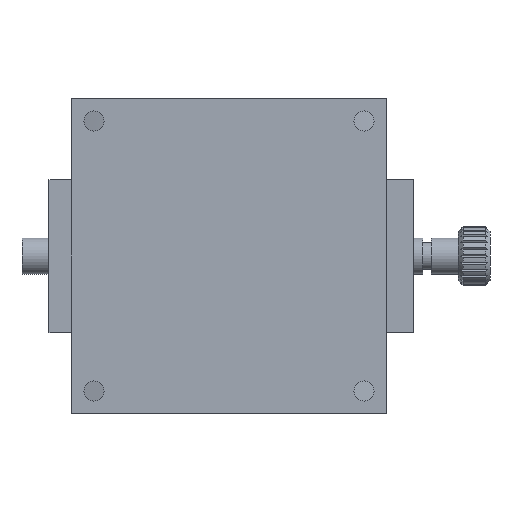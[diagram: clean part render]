
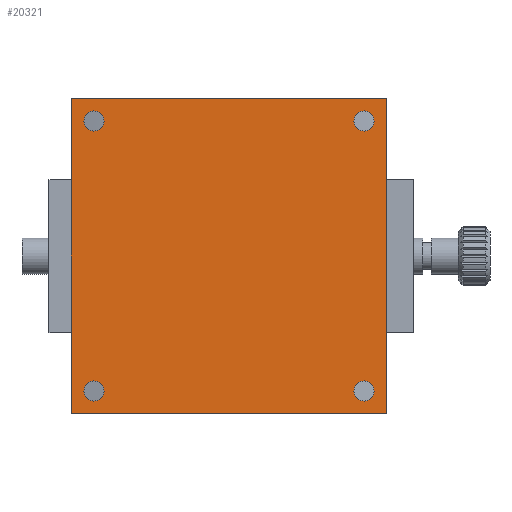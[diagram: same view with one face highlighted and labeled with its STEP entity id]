
A CAD part, front view. The second image highlights one B-rep face of the part: STEP entity #20321.
In plain terms, the highlighted planar face has unit normal (0, -1, 0).
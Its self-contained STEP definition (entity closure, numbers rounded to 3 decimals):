
#957 = AXIS2_PLACEMENT_3D ( 'NONE', #22157, #11945, #13937 ) ;
#1054 = CARTESIAN_POINT ( 'NONE',  ( -35., 0., -35. ) ) ;
#1596 = CARTESIAN_POINT ( 'NONE',  ( 0., 0., 0. ) ) ;
#1687 = DIRECTION ( 'NONE',  ( 0., -1., 0. ) ) ;
#2379 = VERTEX_POINT ( 'NONE', #13180 ) ;
#2416 = CIRCLE ( 'NONE', #24194, 2.25 ) ;
#2545 = ORIENTED_EDGE ( 'NONE', *, *, #26191, .T. ) ;
#2714 = CARTESIAN_POINT ( 'NONE',  ( -35., 0., -35. ) ) ;
#2933 = FACE_BOUND ( 'NONE', #18120, .T. ) ;
#2976 = DIRECTION ( 'NONE',  ( 0., 0., -1. ) ) ;
#3009 = CARTESIAN_POINT ( 'NONE',  ( 30., 0., -30. ) ) ;
#3353 = ORIENTED_EDGE ( 'NONE', *, *, #11181, .F. ) ;
#3579 = CIRCLE ( 'NONE', #13465, 2.25 ) ;
#3696 = DIRECTION ( 'NONE',  ( 0., 0., 1. ) ) ;
#4231 = LINE ( 'NONE', #5696, #11622 ) ;
#4614 = EDGE_LOOP ( 'NONE', ( #18797, #17537 ) ) ;
#5057 = EDGE_CURVE ( 'NONE', #19067, #16190, #21236, .T. ) ;
#5082 = DIRECTION ( 'NONE',  ( 0., 0., 1. ) ) ;
#5465 = DIRECTION ( 'NONE',  ( 0., 1., 0. ) ) ;
#5504 = CARTESIAN_POINT ( 'NONE',  ( 30., 0., 30. ) ) ;
#5696 = CARTESIAN_POINT ( 'NONE',  ( -35., 0., 35. ) ) ;
#6137 = LINE ( 'NONE', #10252, #8397 ) ;
#6139 = ORIENTED_EDGE ( 'NONE', *, *, #5057, .F. ) ;
#6175 = CIRCLE ( 'NONE', #18996, 2.25 ) ;
#6303 = CARTESIAN_POINT ( 'NONE',  ( 30., 0., -30. ) ) ;
#6850 = DIRECTION ( 'NONE',  ( -1., 0., 0. ) ) ;
#7022 = CARTESIAN_POINT ( 'NONE',  ( -35., 0., 35. ) ) ;
#7309 = CIRCLE ( 'NONE', #8521, 2.25 ) ;
#7463 = CARTESIAN_POINT ( 'NONE',  ( 30., 0., 27.75 ) ) ;
#7556 = DIRECTION ( 'NONE',  ( 0., 1., 0. ) ) ;
#7601 = VERTEX_POINT ( 'NONE', #20703 ) ;
#7947 = ORIENTED_EDGE ( 'NONE', *, *, #26633, .T. ) ;
#7998 = EDGE_LOOP ( 'NONE', ( #6139, #3353, #26664, #17516 ) ) ;
#8143 = DIRECTION ( 'NONE',  ( 0., 0., -1. ) ) ;
#8397 = VECTOR ( 'NONE', #14404, 1000. ) ;
#8521 = AXIS2_PLACEMENT_3D ( 'NONE', #3009, #17406, #5082 ) ;
#9028 = EDGE_LOOP ( 'NONE', ( #13979, #11805 ) ) ;
#9031 = FACE_BOUND ( 'NONE', #25531, .T. ) ;
#9077 = CARTESIAN_POINT ( 'NONE',  ( -30., 0., -27.75 ) ) ;
#9150 = EDGE_CURVE ( 'NONE', #16190, #23009, #19702, .T. ) ;
#10019 = VECTOR ( 'NONE', #2976, 1000. ) ;
#10252 = CARTESIAN_POINT ( 'NONE',  ( -35., 0., 35. ) ) ;
#10482 = CARTESIAN_POINT ( 'NONE',  ( 35., 0., 35. ) ) ;
#11181 = EDGE_CURVE ( 'NONE', #20872, #19067, #4231, .T. ) ;
#11231 = CARTESIAN_POINT ( 'NONE',  ( -30., 0., 30. ) ) ;
#11622 = VECTOR ( 'NONE', #20419, 1000. ) ;
#11805 = ORIENTED_EDGE ( 'NONE', *, *, #14452, .T. ) ;
#11888 = DIRECTION ( 'NONE',  ( 0., 0., 1. ) ) ;
#11945 = DIRECTION ( 'NONE',  ( 0., 1., 0. ) ) ;
#12588 = CARTESIAN_POINT ( 'NONE',  ( 35., 0., -35. ) ) ;
#12596 = CIRCLE ( 'NONE', #957, 2.25 ) ;
#12606 = FACE_OUTER_BOUND ( 'NONE', #7998, .T. ) ;
#12961 = DIRECTION ( 'NONE',  ( 0., 1., 0. ) ) ;
#13180 = CARTESIAN_POINT ( 'NONE',  ( 30., 0., 32.25 ) ) ;
#13317 = DIRECTION ( 'NONE',  ( 0., 0., 1. ) ) ;
#13465 = AXIS2_PLACEMENT_3D ( 'NONE', #13965, #16048, #3696 ) ;
#13481 = VERTEX_POINT ( 'NONE', #7463 ) ;
#13548 = CIRCLE ( 'NONE', #23218, 2.25 ) ;
#13728 = CARTESIAN_POINT ( 'NONE',  ( -30., 0., -32.25 ) ) ;
#13808 = CIRCLE ( 'NONE', #20412, 2.25 ) ;
#13937 = DIRECTION ( 'NONE',  ( 0., 0., 1. ) ) ;
#13965 = CARTESIAN_POINT ( 'NONE',  ( -30., 0., -30. ) ) ;
#13979 = ORIENTED_EDGE ( 'NONE', *, *, #19895, .T. ) ;
#14021 = PLANE ( 'NONE',  #22572 ) ;
#14079 = EDGE_CURVE ( 'NONE', #16383, #24379, #13808, .T. ) ;
#14404 = DIRECTION ( 'NONE',  ( 0., 0., 1. ) ) ;
#14452 = EDGE_CURVE ( 'NONE', #18142, #17931, #7309, .T. ) ;
#14672 = DIRECTION ( 'NONE',  ( 0., 0., 1. ) ) ;
#15308 = CARTESIAN_POINT ( 'NONE',  ( 35., 0., 35. ) ) ;
#15894 = EDGE_CURVE ( 'NONE', #7601, #18193, #2416, .T. ) ;
#16048 = DIRECTION ( 'NONE',  ( 0., 1., 0. ) ) ;
#16190 = VERTEX_POINT ( 'NONE', #12588 ) ;
#16383 = VERTEX_POINT ( 'NONE', #13728 ) ;
#16411 = DIRECTION ( 'NONE',  ( 0., 0., 1. ) ) ;
#17406 = DIRECTION ( 'NONE',  ( 0., 1., 0. ) ) ;
#17425 = FACE_BOUND ( 'NONE', #4614, .T. ) ;
#17516 = ORIENTED_EDGE ( 'NONE', *, *, #9150, .F. ) ;
#17537 = ORIENTED_EDGE ( 'NONE', *, *, #14079, .T. ) ;
#17931 = VERTEX_POINT ( 'NONE', #23282 ) ;
#18120 = EDGE_LOOP ( 'NONE', ( #24722, #26205 ) ) ;
#18142 = VERTEX_POINT ( 'NONE', #25880 ) ;
#18193 = VERTEX_POINT ( 'NONE', #26524 ) ;
#18380 = DIRECTION ( 'NONE',  ( 0., 1., 0. ) ) ;
#18797 = ORIENTED_EDGE ( 'NONE', *, *, #19200, .T. ) ;
#18996 = AXIS2_PLACEMENT_3D ( 'NONE', #6303, #18380, #16411 ) ;
#19067 = VERTEX_POINT ( 'NONE', #10482 ) ;
#19200 = EDGE_CURVE ( 'NONE', #24379, #16383, #3579, .T. ) ;
#19670 = CIRCLE ( 'NONE', #23643, 2.25 ) ;
#19702 = LINE ( 'NONE', #2714, #22563 ) ;
#19895 = EDGE_CURVE ( 'NONE', #17931, #18142, #6175, .T. ) ;
#20045 = EDGE_CURVE ( 'NONE', #18193, #7601, #13548, .T. ) ;
#20119 = DIRECTION ( 'NONE',  ( 0., 0., 1. ) ) ;
#20321 = ADVANCED_FACE ( 'NONE', ( #24432, #9031, #2933, #17425, #12606 ), #14021, .T. ) ;
#20412 = AXIS2_PLACEMENT_3D ( 'NONE', #21892, #5465, #20119 ) ;
#20419 = DIRECTION ( 'NONE',  ( 1., 0., 0. ) ) ;
#20703 = CARTESIAN_POINT ( 'NONE',  ( -30., 0., 32.25 ) ) ;
#20835 = CARTESIAN_POINT ( 'NONE',  ( -30., 0., 30. ) ) ;
#20872 = VERTEX_POINT ( 'NONE', #7022 ) ;
#21236 = LINE ( 'NONE', #15308, #10019 ) ;
#21892 = CARTESIAN_POINT ( 'NONE',  ( -30., 0., -30. ) ) ;
#22157 = CARTESIAN_POINT ( 'NONE',  ( 30., 0., 30. ) ) ;
#22563 = VECTOR ( 'NONE', #6850, 1000. ) ;
#22572 = AXIS2_PLACEMENT_3D ( 'NONE', #1596, #1687, #8143 ) ;
#23009 = VERTEX_POINT ( 'NONE', #1054 ) ;
#23218 = AXIS2_PLACEMENT_3D ( 'NONE', #20835, #12961, #14672 ) ;
#23282 = CARTESIAN_POINT ( 'NONE',  ( 30., 0., -27.75 ) ) ;
#23643 = AXIS2_PLACEMENT_3D ( 'NONE', #5504, #7556, #11888 ) ;
#24194 = AXIS2_PLACEMENT_3D ( 'NONE', #11231, #25560, #13317 ) ;
#24379 = VERTEX_POINT ( 'NONE', #9077 ) ;
#24432 = FACE_BOUND ( 'NONE', #9028, .T. ) ;
#24722 = ORIENTED_EDGE ( 'NONE', *, *, #15894, .T. ) ;
#25531 = EDGE_LOOP ( 'NONE', ( #7947, #2545 ) ) ;
#25560 = DIRECTION ( 'NONE',  ( 0., 1., 0. ) ) ;
#25880 = CARTESIAN_POINT ( 'NONE',  ( 30., 0., -32.25 ) ) ;
#26191 = EDGE_CURVE ( 'NONE', #13481, #2379, #19670, .T. ) ;
#26205 = ORIENTED_EDGE ( 'NONE', *, *, #20045, .T. ) ;
#26381 = EDGE_CURVE ( 'NONE', #23009, #20872, #6137, .T. ) ;
#26524 = CARTESIAN_POINT ( 'NONE',  ( -30., 0., 27.75 ) ) ;
#26633 = EDGE_CURVE ( 'NONE', #2379, #13481, #12596, .T. ) ;
#26664 = ORIENTED_EDGE ( 'NONE', *, *, #26381, .F. ) ;
